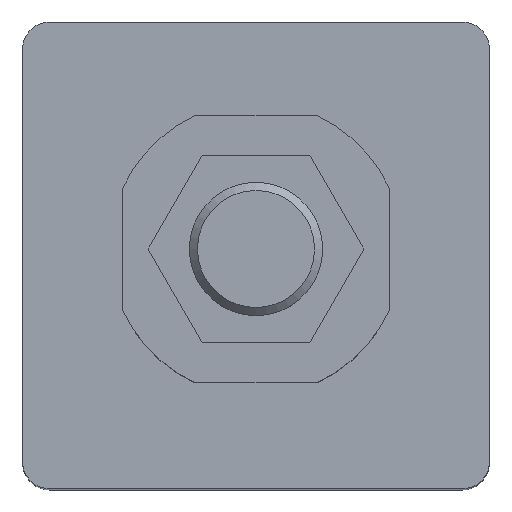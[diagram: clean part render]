
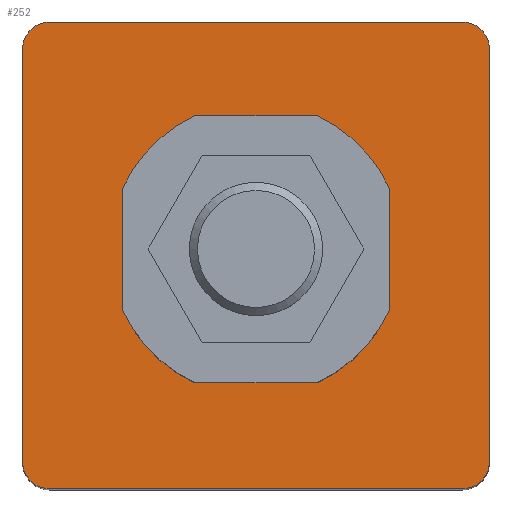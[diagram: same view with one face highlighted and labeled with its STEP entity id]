
A CAD part, top view. The second image highlights one B-rep face of the part: STEP entity #252.
In plain terms, the highlighted planar face has unit normal (0, 0, 1) as drawn and (0, 0, -1) by its records, which use the part's own axes.
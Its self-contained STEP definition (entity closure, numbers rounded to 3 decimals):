
#252 = ADVANCED_FACE( '', ( #533, #534 ), #535, .F. );
#533 = FACE_BOUND( '', #829, .T. );
#534 = FACE_OUTER_BOUND( '', #830, .T. );
#535 = PLANE( '', #831 );
#829 = EDGE_LOOP( '', ( #1336 ) );
#830 = EDGE_LOOP( '', ( #1337, #1338, #1339, #1340, #1341, #1342, #1343, #1344 ) );
#831 = AXIS2_PLACEMENT_3D( '', #1345, #1346, #1347 );
#1336 = ORIENTED_EDGE( '', *, *, #1710, .T. );
#1337 = ORIENTED_EDGE( '', *, *, #1717, .F. );
#1338 = ORIENTED_EDGE( '', *, *, #1718, .F. );
#1339 = ORIENTED_EDGE( '', *, *, #1714, .F. );
#1340 = ORIENTED_EDGE( '', *, *, #1689, .F. );
#1341 = ORIENTED_EDGE( '', *, *, #1719, .F. );
#1342 = ORIENTED_EDGE( '', *, *, #1720, .F. );
#1343 = ORIENTED_EDGE( '', *, *, #1600, .F. );
#1344 = ORIENTED_EDGE( '', *, *, #1721, .F. );
#1345 = CARTESIAN_POINT( '', ( -15.5, 15.5, -57. ) );
#1346 = DIRECTION( '', ( 0., 0., 1. ) );
#1347 = DIRECTION( '', ( 1., 0., 0. ) );
#1600 = EDGE_CURVE( '', #1873, #1875, #1876, .T. );
#1689 = EDGE_CURVE( '', #2004, #2006, #2007, .T. );
#1710 = EDGE_CURVE( '', #2037, #2037, #2038, .T. );
#1714 = EDGE_CURVE( '', #2006, #2042, #2043, .T. );
#1717 = EDGE_CURVE( '', #2046, #2047, #2048, .T. );
#1718 = EDGE_CURVE( '', #2042, #2046, #2049, .T. );
#1719 = EDGE_CURVE( '', #2050, #2004, #2051, .T. );
#1720 = EDGE_CURVE( '', #1875, #2050, #2052, .T. );
#1721 = EDGE_CURVE( '', #2047, #1873, #2053, .T. );
#1873 = VERTEX_POINT( '', #2239 );
#1875 = VERTEX_POINT( '', #2242 );
#1876 = CIRCLE( '', #2243, 2. );
#2004 = VERTEX_POINT( '', #2403 );
#2006 = VERTEX_POINT( '', #2406 );
#2007 = LINE( '', #2407, #2408 );
#2037 = VERTEX_POINT( '', #2445 );
#2038 = CIRCLE( '', #2446, 9. );
#2042 = VERTEX_POINT( '', #2450 );
#2043 = CIRCLE( '', #2451, 2. );
#2046 = VERTEX_POINT( '', #2455 );
#2047 = VERTEX_POINT( '', #2456 );
#2048 = CIRCLE( '', #2457, 2. );
#2049 = LINE( '', #2458, #2459 );
#2050 = VERTEX_POINT( '', #2460 );
#2051 = CIRCLE( '', #2461, 2. );
#2052 = LINE( '', #2462, #2463 );
#2053 = LINE( '', #2464, #2465 );
#2239 = CARTESIAN_POINT( '', ( -17.5, -15.5, -57. ) );
#2242 = CARTESIAN_POINT( '', ( -15.5, -17.5, -57. ) );
#2243 = AXIS2_PLACEMENT_3D( '', #2607, #2608, #2609 );
#2403 = CARTESIAN_POINT( '', ( 17.5, -15.5, -57. ) );
#2406 = CARTESIAN_POINT( '', ( 17.5, 15.5, -57. ) );
#2407 = CARTESIAN_POINT( '', ( 17.5, -15.5, -57. ) );
#2408 = VECTOR( '', #2724, 1000. );
#2445 = CARTESIAN_POINT( '', ( 9., 0., -57. ) );
#2446 = AXIS2_PLACEMENT_3D( '', #2750, #2751, #2752 );
#2450 = CARTESIAN_POINT( '', ( 15.5, 17.5, -57. ) );
#2451 = AXIS2_PLACEMENT_3D( '', #2753, #2754, #2755 );
#2455 = CARTESIAN_POINT( '', ( -15.5, 17.5, -57. ) );
#2456 = CARTESIAN_POINT( '', ( -17.5, 15.5, -57. ) );
#2457 = AXIS2_PLACEMENT_3D( '', #2757, #2758, #2759 );
#2458 = CARTESIAN_POINT( '', ( 15.5, 17.5, -57. ) );
#2459 = VECTOR( '', #2760, 1000. );
#2460 = CARTESIAN_POINT( '', ( 15.5, -17.5, -57. ) );
#2461 = AXIS2_PLACEMENT_3D( '', #2761, #2762, #2763 );
#2462 = CARTESIAN_POINT( '', ( -15.5, -17.5, -57. ) );
#2463 = VECTOR( '', #2764, 1000. );
#2464 = CARTESIAN_POINT( '', ( -17.5, 15.5, -57. ) );
#2465 = VECTOR( '', #2765, 1000. );
#2607 = CARTESIAN_POINT( '', ( -15.5, -15.5, -57. ) );
#2608 = DIRECTION( '', ( 0., 0., 1. ) );
#2609 = DIRECTION( '', ( 1., 0., 0. ) );
#2724 = DIRECTION( '', ( 0., 1., 0. ) );
#2750 = CARTESIAN_POINT( '', ( 0., 0., -57. ) );
#2751 = DIRECTION( '', ( 0., 0., 1. ) );
#2752 = DIRECTION( '', ( 1., 0., 0. ) );
#2753 = CARTESIAN_POINT( '', ( 15.5, 15.5, -57. ) );
#2754 = DIRECTION( '', ( 0., 0., 1. ) );
#2755 = DIRECTION( '', ( 1., 0., 0. ) );
#2757 = CARTESIAN_POINT( '', ( -15.5, 15.5, -57. ) );
#2758 = DIRECTION( '', ( 0., 0., 1. ) );
#2759 = DIRECTION( '', ( 1., 0., 0. ) );
#2760 = DIRECTION( '', ( -1., 0., 0. ) );
#2761 = CARTESIAN_POINT( '', ( 15.5, -15.5, -57. ) );
#2762 = DIRECTION( '', ( 0., 0., 1. ) );
#2763 = DIRECTION( '', ( 1., 0., 0. ) );
#2764 = DIRECTION( '', ( 1., 0., 0. ) );
#2765 = DIRECTION( '', ( 0., -1., 0. ) );
